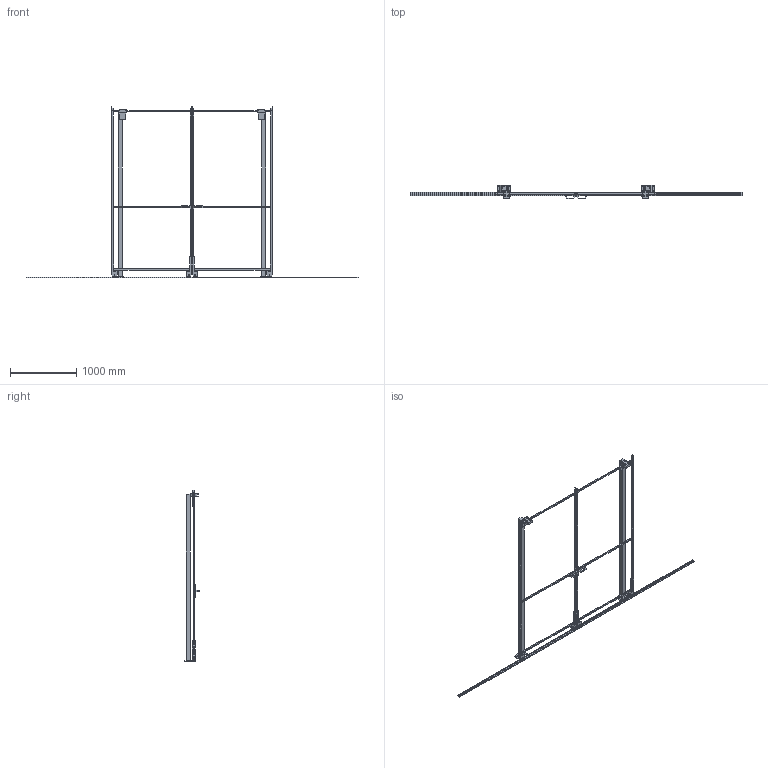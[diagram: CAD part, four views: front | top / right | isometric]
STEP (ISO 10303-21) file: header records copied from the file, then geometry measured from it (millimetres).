
FILE_DESCRIPTION(/* description */ (''),/* implementation_level */ '2;1');
FILE_NAME(/* name */ 'C:\SafeGuarding\ELABORATI\Drawing4_2025-05-14-14-19-54.stp',/* time_stamp */ '2025-05-14T14:19:55+02:00',/* author */ ('admin'),/* organization */ (''),/* preprocessor_version */ 'ST-DEVELOPER v18.1',/* originating_system */ 'AutoCAD Mechanical',/* authorisation */ '');
FILE_SCHEMA (('AUTOMOTIVE_DESIGN { 1 0 10303 214 3 1 1 }','INTEGRATED_CNC_SCHEMA'));
Length unit declared in the file: millimetre
Products named in the file (3): Product; VFPA.REPE2012002400; P_VFMA.V260SDU.2520
Assembly tree (4 placements, depth 2):
  Product
    VFPA.REPE2012002400  x2
    P_VFMA.V260SDU.2520  x2
Bounding box: 5000 x 211.4 x 2590 mm (x, y, z)
Volume: 27766517.8 mm3; surface area: 3964071.8 mm2
Topology: 44 solids, 66 shells, 472 faces, 1536 edges, 1432 vertices
Faces by surface type: plane 408, cylinder 56, cone 8
Full cylindrical faces by diameter (mm): 9 x8, 11 x8, 13 x8, 14 x4, 18 x8, 30 x4, 36 x8, 58 x8
Entity records: 15027 total; most frequent: CARTESIAN_POINT 3179, DIRECTION 2262, ORIENTED_EDGE 2176, EDGE_CURVE 1186, LINE 984, VECTOR 984, VERTEX_POINT 872, AXIS2_PLACEMENT_3D 639
